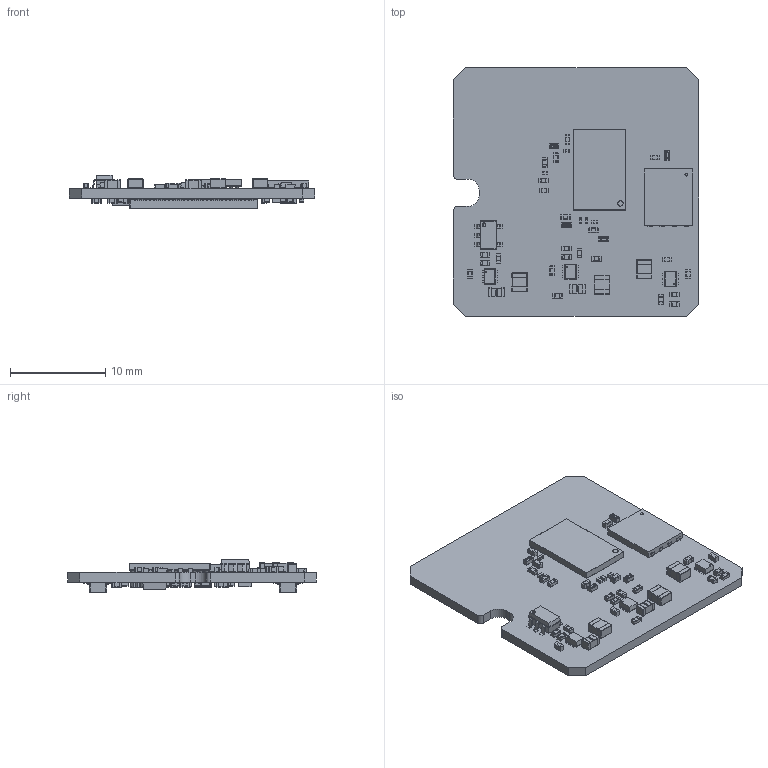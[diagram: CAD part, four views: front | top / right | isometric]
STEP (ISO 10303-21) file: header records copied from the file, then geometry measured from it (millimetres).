
FILE_DESCRIPTION(('Open CASCADE Model'),'2;1');
FILE_NAME('Open CASCADE Shape Model','2025-06-21T12:32:34',('Author'),( 'Open CASCADE'),'Open CASCADE STEP processor 6.8','Open CASCADE 6.8' ,'Unknown');
FILE_SCHEMA(('AUTOMOTIVE_DESIGN { 1 0 10303 214 1 1 1 1 }'));
Products named in the file (1): PCB
Bounding box: 25.78 x 26.16 x 3.55 mm (x, y, z)
Volume: 754.6 mm3; surface area: 2413.6 mm2
Topology: 357 solids, 891 shells, 8142 faces, 21235 edges, 13405 vertices
Faces by surface type: plane 4252, cylinder 2910, sphere 944, torus 26, cone 8, bspline 2
Full cylindrical faces by diameter (mm): 0.15 x3, 0.3 x2
Entity records: 246865 total; most frequent: CARTESIAN_POINT 45373, DIRECTION 41353, ORIENTED_EDGE 38466, EDGE_CURVE 20289, LINE 13807, VECTOR 13807, AXIS2_PLACEMENT_3D 13773, VERTEX_POINT 13405
